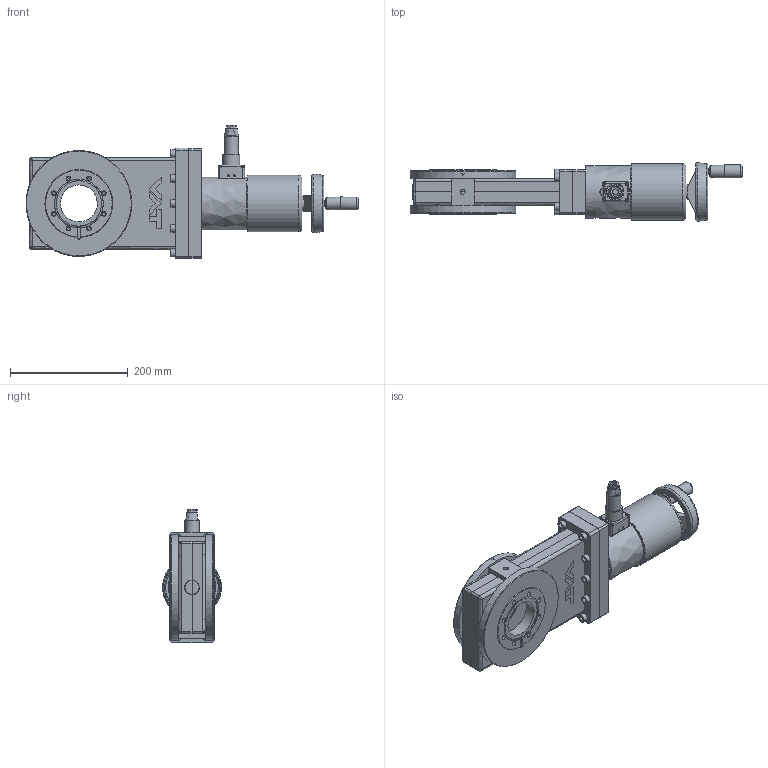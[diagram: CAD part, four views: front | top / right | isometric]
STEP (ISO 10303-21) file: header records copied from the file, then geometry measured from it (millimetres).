
FILE_DESCRIPTION((''),'2;1');
FILE_NAME('O:\MT\MT\Systeme\Cad\Datenexporte\www_vat_ch\211056.stp','2004-06-14T15:14:38',('User'),('SDRC'),'I-DEAS Master Series 9','UNIX','Yes');
FILE_SCHEMA(('CONFIG_CONTROL_DESIGN'));
Length unit declared in the file: millimetre
Assembly tree (31 placements, depth 0):
Bounding box: 564.97 x 100.02 x 227 mm (x, y, z)
Volume: 1736946.6 mm3; surface area: 636650.6 mm2
Topology: 53 solids, 53 shells, 1032 faces, 2504 edges, 1769 vertices
Faces by surface type: bspline 1032
Entity records: 29935 total; most frequent: CARTESIAN_POINT 16483, ORIENTED_EDGE 3472, EDGE_CURVE 1736, VERTEX_POINT 1133, EDGE_LOOP 939, FACE_OUTER_BOUND 752, ADVANCED_FACE 752, QUASI_UNIFORM_CURVE 657
